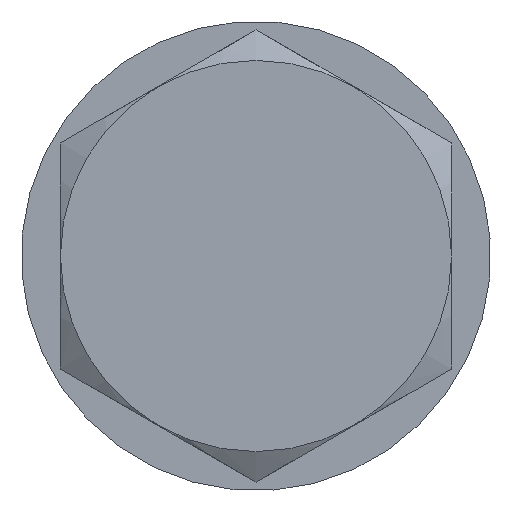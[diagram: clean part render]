
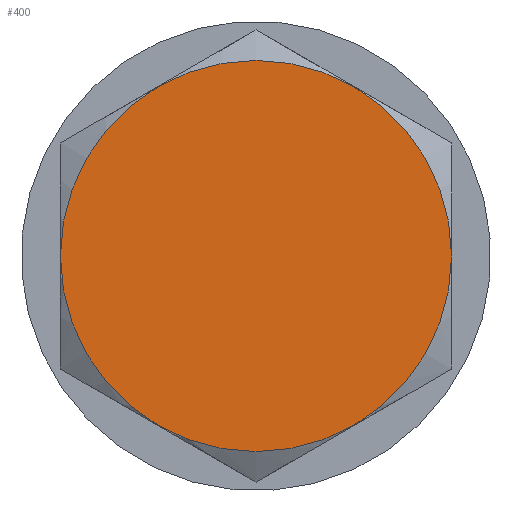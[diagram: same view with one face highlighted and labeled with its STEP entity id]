
A CAD part, left-side view. The second image highlights one B-rep face of the part: STEP entity #400.
In plain terms, the highlighted planar face has unit normal (-1, 0, 0).
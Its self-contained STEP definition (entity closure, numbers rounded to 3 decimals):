
#384=CARTESIAN_POINT('',(-4.,-2.5,0.));
#385=DIRECTION('',(-1.0,0.0,0.0));
#386=DIRECTION('',(0.0,0.0,-1.0));
#387=AXIS2_PLACEMENT_3D('',#384,#385,#386);
#388=PLANE('',#387);
#389=CARTESIAN_POINT('',(-4.,-5.0,0.));
#390=VERTEX_POINT('',#389);
#391=CARTESIAN_POINT('',(-4.,0.,0.));
#392=DIRECTION('',(1.0,0.0,0.0));
#393=DIRECTION('',(0.0,-1.0,0.0));
#394=AXIS2_PLACEMENT_3D('',#391,#392,#393);
#395=CIRCLE('',#394,5.0);
#396=EDGE_CURVE('',#390,#390,#395,.T.);
#397=ORIENTED_EDGE('',*,*,#396,.F.);
#398=EDGE_LOOP('',(#397));
#399=FACE_OUTER_BOUND('',#398,.T.);
#400=ADVANCED_FACE('',(#399),#388,.T.);
